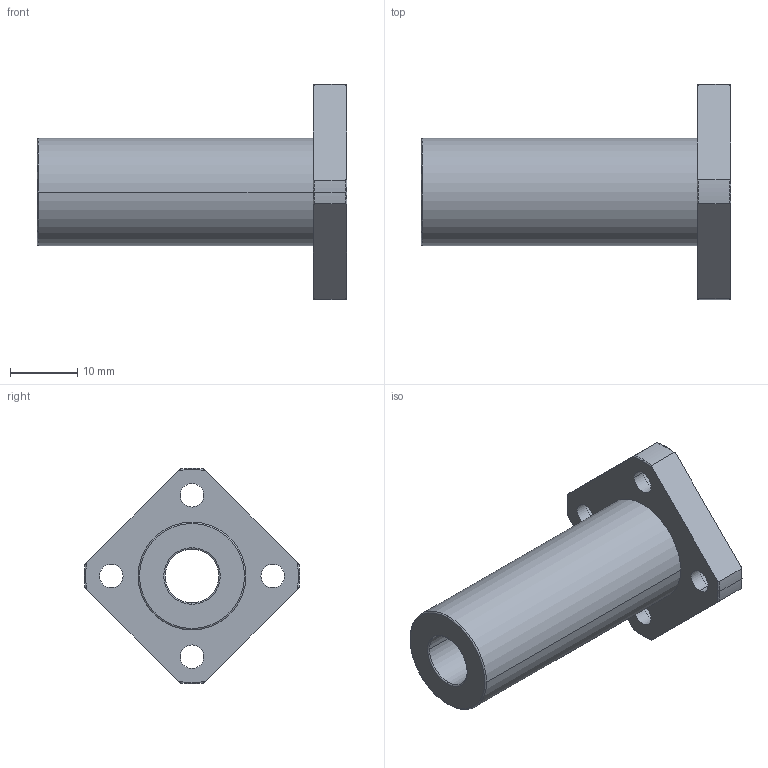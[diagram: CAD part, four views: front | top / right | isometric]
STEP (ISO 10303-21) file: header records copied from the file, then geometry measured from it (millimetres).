
FILE_DESCRIPTION(('FreeCAD Model'),'2;1');
FILE_NAME('Open CASCADE Shape Model','2021-05-03T14:55:43',('Author'),( ''),'Open CASCADE STEP processor 7.5','FreeCAD','Unknown');
FILE_SCHEMA(('AUTOMOTIVE_DESIGN { 1 0 10303 214 1 1 1 1 }'));
Length unit declared in the file: millimetre
Products named in the file (1): linear_lmek8luu
Bounding box: 46 x 32 x 32 mm (x, y, z)
Volume: 8573.1 mm3; surface area: 5042.9 mm2
Topology: 1 solids, 1 shells, 55 faces, 147 edges, 99 vertices
Faces by surface type: cylinder 26, torus 18, plane 11
Entity records: 4837 total; most frequent: CARTESIAN_POINT 1912, DIRECTION 560, ORIENTED_EDGE 294, PCURVE 294, DEFINITIONAL_REPRESENTATION 294, LINE 245, VECTOR 245, AXIS2_PLACEMENT_3D 149
